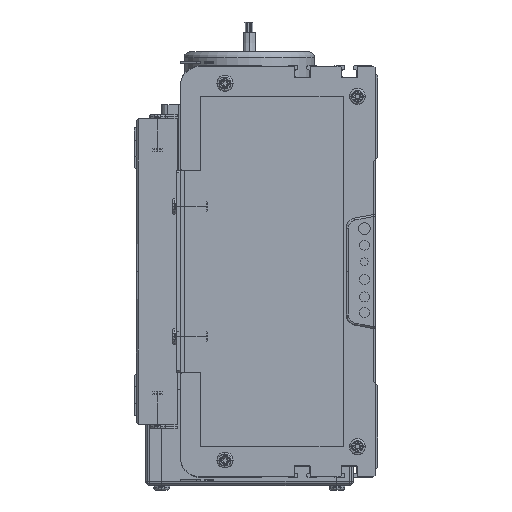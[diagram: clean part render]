
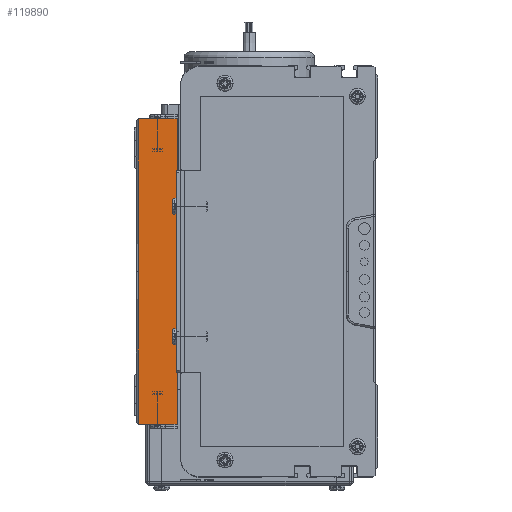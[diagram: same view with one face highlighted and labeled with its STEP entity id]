
A CAD part, left-side view. The second image highlights one B-rep face of the part: STEP entity #119890.
In plain terms, the highlighted planar face has unit normal (-1, 0, 0).
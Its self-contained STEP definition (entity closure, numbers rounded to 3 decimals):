
#15463 = CARTESIAN_POINT ( 'NONE',  ( 0., 0., 75. ) ) ;
#19001 = LINE ( 'NONE', #19137, #19136 ) ;
#19134 = DIRECTION ( 'NONE',  ( 0., -1., 0. ) ) ;
#19136 = VECTOR ( 'NONE', #19134, 1000. ) ;
#19137 = CARTESIAN_POINT ( 'NONE',  ( 0., 20., 75. ) ) ;
#19317 = DIRECTION ( 'NONE',  ( 0., 0., 1. ) ) ;
#19318 = VECTOR ( 'NONE', #19317, 1000. ) ;
#19320 = CARTESIAN_POINT ( 'NONE',  ( 0., 0., 0. ) ) ;
#19441 = LINE ( 'NONE', #19320, #19318 ) ;
#19814 = CARTESIAN_POINT ( 'NONE',  ( 0., 19., 75. ) ) ;
#20122 = CARTESIAN_POINT ( 'NONE',  ( 0., 0., -75. ) ) ;
#20618 = VECTOR ( 'NONE', #20714, 1000. ) ;
#20653 = CARTESIAN_POINT ( 'NONE',  ( 0., 19., 0. ) ) ;
#20669 = CARTESIAN_POINT ( 'NONE',  ( 0., 20., -75. ) ) ;
#20670 = LINE ( 'NONE', #20669, #20618 ) ;
#20714 = DIRECTION ( 'NONE',  ( 0., -1., 0. ) ) ;
#20745 = CARTESIAN_POINT ( 'NONE',  ( 0., 19., 0. ) ) ;
#20746 = LINE ( 'NONE', #20745, #20807 ) ;
#20806 = DIRECTION ( 'NONE',  ( 0., 0., -1. ) ) ;
#20807 = VECTOR ( 'NONE', #20806, 1000. ) ;
#20860 = AXIS2_PLACEMENT_3D ( 'NONE', #20986, #20984, #20983 ) ;
#20863 = DIRECTION ( 'NONE',  ( 0., 0., -1. ) ) ;
#20864 = VECTOR ( 'NONE', #20863, 1000. ) ;
#20875 = CARTESIAN_POINT ( 'NONE',  ( 0., 19., 0. ) ) ;
#20876 = LINE ( 'NONE', #20875, #20864 ) ;
#20983 = DIRECTION ( 'NONE',  ( 0., 0., -1. ) ) ;
#20984 = DIRECTION ( 'NONE',  ( 1., 0., 0. ) ) ;
#20986 = CARTESIAN_POINT ( 'NONE',  ( 0., 20., 0. ) ) ;
#20993 = FACE_OUTER_BOUND ( 'NONE', #119779, .T. ) ;
#21026 = PLANE ( 'NONE',  #20860 ) ;
#21271 = CARTESIAN_POINT ( 'NONE',  ( 0., 19., -75. ) ) ;
#118967 = VERTEX_POINT ( 'NONE', #15463 ) ;
#119264 = EDGE_CURVE ( 'NONE', #119537, #118967, #19441, .T. ) ;
#119411 = EDGE_CURVE ( 'NONE', #119469, #118967, #19001, .T. ) ;
#119469 = VERTEX_POINT ( 'NONE', #19814 ) ;
#119537 = VERTEX_POINT ( 'NONE', #20122 ) ;
#119665 = ORIENTED_EDGE ( 'NONE', *, *, #119854, .T. ) ;
#119669 = EDGE_CURVE ( 'NONE', #119995, #119537, #20670, .T. ) ;
#119697 = EDGE_CURVE ( 'NONE', #119469, #119924, #20746, .T. ) ;
#119714 = ORIENTED_EDGE ( 'NONE', *, *, #119264, .T. ) ;
#119779 = EDGE_LOOP ( 'NONE', ( #119894, #119896, #119665, #119877, #119714 ) ) ;
#119854 = EDGE_CURVE ( 'NONE', #119924, #119995, #20876, .T. ) ;
#119877 = ORIENTED_EDGE ( 'NONE', *, *, #119669, .T. ) ;
#119890 = ADVANCED_FACE ( 'NONE', ( #20993 ), #21026, .F. ) ;
#119894 = ORIENTED_EDGE ( 'NONE', *, *, #119411, .F. ) ;
#119896 = ORIENTED_EDGE ( 'NONE', *, *, #119697, .T. ) ;
#119924 = VERTEX_POINT ( 'NONE', #20653 ) ;
#119995 = VERTEX_POINT ( 'NONE', #21271 ) ;
